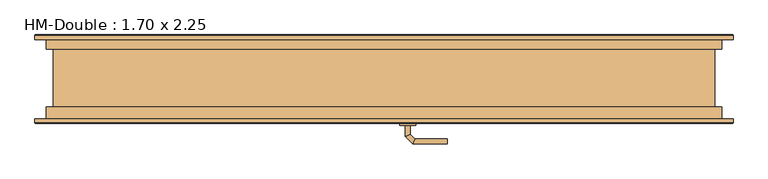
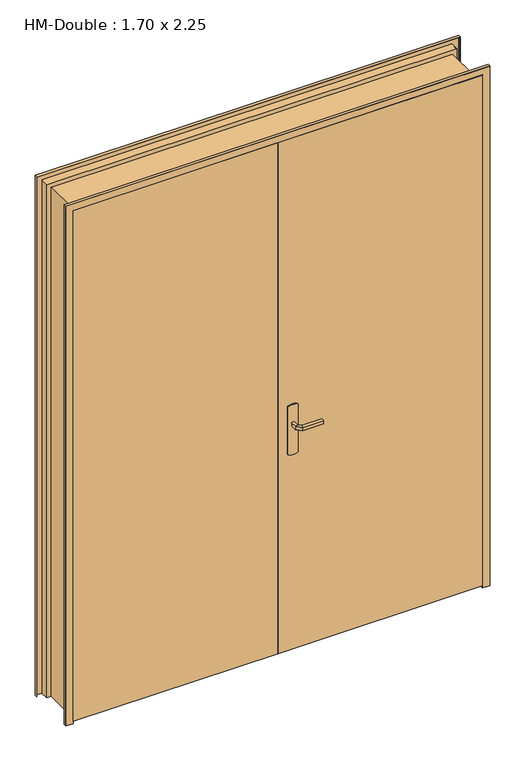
"""IFC4 building model written with IfcOpenShell, lengths in millimetres: door geometry, HM-Double : 1.70 x 2.25."""

import ifcopenshell
import ifcopenshell.guid

model = None  # the IFC model being written
_history = None  # IfcOwnerHistory: only IFC2X3 demands one
_inside = {}  # id of a spatial element -> (the spatial element, [elements in it])
_under = {}  # id of a project, library or spatial element -> (it, [spatial elements below it])
_declared = {}  # id of a project -> (the project, [libraries it declares])
_typed = {}  # id of a type object -> (the type object, [elements of that type])
_made_of = {}  # id of a material, layer set ... -> (it, [elements and type objects made of it])


def new_model(schema):
    """Start an empty IFC model of exactly this schema.

    Asked for "IFC4X3", IfcOpenShell would pick the latest addendum, in which some entities
    have other attributes; the version numbers below select the first issue.
    IFC2X3 requires an IfcOwnerHistory on every rooted entity: one is made here for all.
    """
    global model, _history
    if schema == "IFC4X3":
        model = ifcopenshell.file(schema_version=(4, 3, 0, 0))
    else:
        model = ifcopenshell.file(schema=schema)
    _inside.clear()
    _under.clear()
    _declared.clear()
    _typed.clear()
    _made_of.clear()
    _history = None
    if model.schema == "IFC2X3":
        org = make("IfcOrganization", Name="unknown")
        user = make(
            "IfcPersonAndOrganization",
            ThePerson=make("IfcPerson", FamilyName="unknown"),
            TheOrganization=org,
        )
        app = make(
            "IfcApplication",
            ApplicationDeveloper=org,
            Version="unknown",
            ApplicationFullName="unknown",
            ApplicationIdentifier="unknown",
        )
        _history = make(
            "IfcOwnerHistory",
            OwningUser=user,
            OwningApplication=app,
            ChangeAction="ADDED",
            CreationDate=0,
        )
    return model


def make(cls, **values):
    """One entity of the class cls with the attributes given. An attribute that is None is left unset."""
    return model.create_entity(
        cls, **{name: value for name, value in values.items() if value is not None}
    )


def rooted(cls, **values):
    """An entity with a GlobalId (a new one), such as an element, a storey or a relation."""
    return make(cls, GlobalId=ifcopenshell.guid.new(), OwnerHistory=_history, **values)


def si_unit(unit_type, name, prefix=None):
    """IfcSIUnit, for example si_unit("LENGTHUNIT", "METRE", prefix="MILLI")."""
    return make("IfcSIUnit", UnitType=unit_type, Prefix=prefix, Name=name)


def assignment(units):
    """IfcUnitAssignment: the units of a project."""
    return None if units is None else make("IfcUnitAssignment", Units=units)


def point(xyz):
    """IfcCartesianPoint."""
    return None if xyz is None else make("IfcCartesianPoint", Coordinates=xyz)


def direction(xyz):
    """IfcDirection."""
    return None if xyz is None else make("IfcDirection", DirectionRatios=xyz)


def frame(location, z_axis=None, x_axis=None):
    """IfcAxis2Placement3D, a coordinate frame: its origin and axes. An axis left out is left unset."""
    return make(
        "IfcAxis2Placement3D",
        Location=point(location),
        Axis=direction(z_axis),
        RefDirection=direction(x_axis),
    )


def frame_2d(location, x_axis=None):
    """IfcAxis2Placement2D, a coordinate frame in the plane: its origin and x axis."""
    return make(
        "IfcAxis2Placement2D", Location=point(location), RefDirection=direction(x_axis)
    )


def origin():
    """The frame at (0, 0, 0) with its axes left unset."""
    return frame((0.0, 0.0, 0.0))


def place(relative_to, where):
    """IfcLocalPlacement: puts the frame where relative to a parent placement (None: the world)."""
    return make(
        "IfcLocalPlacement", PlacementRelTo=relative_to, RelativePlacement=where
    )


def context(
    kind, dimensions, precision=None, world=None, true_north=None, identifier=None
):
    """IfcGeometricRepresentationContext, for example the 3D "Model" context."""
    return make(
        "IfcGeometricRepresentationContext",
        ContextIdentifier=identifier,
        ContextType=kind,
        CoordinateSpaceDimension=dimensions,
        Precision=precision,
        WorldCoordinateSystem=world,
        TrueNorth=true_north,
    )


def project(units=None, contexts=None):
    """IfcProject with its units and contexts."""
    return rooted(
        "IfcProject",
        Name="project",
        RepresentationContexts=contexts,
        UnitsInContext=assignment(units),
    )


def spatial(cls, under=None, at=None, **own):
    """A site, building, storey or space (cls), placed at a placement, below another one or the project."""
    s = rooted(cls, ObjectPlacement=at, **own)
    if under is not None:
        _under.setdefault(under.id(), (under, []))[1].append(s)
    return s


def polyline(points):
    """IfcPolyline through the points."""
    return make("IfcPolyline", Points=[point(p) for p in points])


def circle_curve(where, radius):
    """IfcCircle in the frame where."""
    return make("IfcCircle", Position=where, Radius=radius)


def ellipse_curve(where, semi_axis1, semi_axis2):
    """IfcEllipse in the frame where."""
    return make(
        "IfcEllipse", Position=where, SemiAxis1=semi_axis1, SemiAxis2=semi_axis2
    )


def trimmed(basis, trim1, trim2, sense, master):
    """IfcTrimmedCurve: the piece of a basis curve between two trims."""
    return make(
        "IfcTrimmedCurve",
        BasisCurve=basis,
        Trim1=trim1,
        Trim2=trim2,
        SenseAgreement=sense,
        MasterRepresentation=master,
    )


def segment(curve, same_sense, transition):
    """IfcCompositeCurveSegment."""
    return make(
        "IfcCompositeCurveSegment",
        Transition=transition,
        SameSense=same_sense,
        ParentCurve=curve,
    )


def composite_curve(segments, self_intersect=None):
    """IfcCompositeCurve: segments joined end to end."""
    return make("IfcCompositeCurve", Segments=segments, SelfIntersect=self_intersect)


def outline(outer, holes=None, kind="AREA"):
    """IfcArbitraryClosedProfileDef: a profile drawn as a closed curve; with holes, ...WithVoids."""
    if holes is None:
        return make("IfcArbitraryClosedProfileDef", ProfileType=kind, OuterCurve=outer)
    return make(
        "IfcArbitraryProfileDefWithVoids",
        ProfileType=kind,
        OuterCurve=outer,
        InnerCurves=holes,
    )


def extrude(swept, where, along, depth):
    """IfcExtrudedAreaSolid: the profile swept, set in the frame where, extruded along a direction by depth."""
    return make(
        "IfcExtrudedAreaSolid",
        SweptArea=swept,
        Position=where,
        ExtrudedDirection=direction(along),
        Depth=depth,
    )


def faces_of(points, faces, orient=None, outer=None):
    """IfcFace entities. A face is a list of loops; a loop is a list of indices into points, from 0.

    orient and outer hold one flag for each loop. By default every Orientation is true, the
    first loop of a face is its IfcFaceOuterBound and the others are IfcFaceBound.
    """
    made = []
    for i, loops in enumerate(faces):
        bounds = []
        for j, loop in enumerate(loops):
            is_outer = j == 0 if outer is None else outer[i][j]
            bounds.append(
                make(
                    "IfcFaceOuterBound" if is_outer else "IfcFaceBound",
                    Bound=make("IfcPolyLoop", Polygon=[points[k] for k in loop]),
                    Orientation=True if orient is None else orient[i][j],
                )
            )
        made.append(make("IfcFace", Bounds=bounds))
    return made


def faceted_brep(points, faces, orient=None, outer=None, voids=None):
    """IfcFacetedBrep: a solid bounded by flat faces; with voids (closed shells), ...WithVoids."""
    shared = [point(p) for p in points]
    hull = make("IfcClosedShell", CfsFaces=faces_of(shared, faces, orient, outer))
    if voids is None:
        return make("IfcFacetedBrep", Outer=hull)
    return make(
        "IfcFacetedBrepWithVoids",
        Outer=hull,
        Voids=[
            make(cls, CfsFaces=faces_of(shared, fs, o, b)) for cls, fs, o, b in voids
        ],
    )


def shape(context_of_items, identifier, shape_type, items):
    """IfcShapeRepresentation: the items that make up one representation, for example the "Body"."""
    return make(
        "IfcShapeRepresentation",
        ContextOfItems=context_of_items,
        RepresentationIdentifier=identifier,
        RepresentationType=shape_type,
        Items=items,
    )


def source(mapping_origin, context_of_items, identifier, shape_type, items):
    """IfcRepresentationMap: a shape defined once, which mapped items show again and again."""
    return make(
        "IfcRepresentationMap",
        MappingOrigin=mapping_origin,
        MappedRepresentation=shape(context_of_items, identifier, shape_type, items),
    )


def transform(
    local_origin,
    x_axis=None,
    y_axis=None,
    z_axis=None,
    scale=None,
    scale2=None,
    scale3=None,
    uniform=True,
):
    """IfcCartesianTransformationOperator3D, or its non-uniform kind. x_axis, y_axis, z_axis: its Axis1, 2, 3."""
    if uniform:
        return make(
            "IfcCartesianTransformationOperator3D",
            Axis1=direction(x_axis),
            Axis2=direction(y_axis),
            LocalOrigin=point(local_origin),
            Scale=scale,
            Axis3=direction(z_axis),
        )
    return make(
        "IfcCartesianTransformationOperator3DnonUniform",
        Axis1=direction(x_axis),
        Axis2=direction(y_axis),
        LocalOrigin=point(local_origin),
        Scale=scale,
        Axis3=direction(z_axis),
        Scale2=scale2,
        Scale3=scale3,
    )


def mapped(mapping_source, mapping_target):
    """IfcMappedItem: shows the shape of a source again, moved by a transform."""
    return make(
        "IfcMappedItem", MappingSource=mapping_source, MappingTarget=mapping_target
    )


def made_of(thing, what):
    """Note that an element or type object is made of a material, layer set ...; save() writes the relation."""
    if what is not None:
        _made_of.setdefault(what.id(), (what, []))[1].append(thing)
    return thing


def element(
    cls,
    number,
    at=None,
    inside=None,
    cuts=None,
    type_object=None,
    material=None,
    context=None,
    identifier="Body",
    shape_type=None,
    held_by="IfcProductDefinitionShape",
    body=None,
    shapes=None,
    **own,
):
    """One element of the class cls, such as IfcWall. Its Tag is "e" and its number.

    at: its placement. inside: the storey or other place that contains it. cuts: it is an
    opening in that element (IfcRelVoidsElement). A single representation is given by context,
    identifier, shape_type and body (its items); several are given by shapes. held_by: the class
    of the entity that holds the representations. save() writes the other relations.
    """
    e = rooted(cls, Tag="e%d" % number, ObjectPlacement=at, **own)
    if body is not None:
        shapes = [shape(context, identifier, shape_type, body)]
    if shapes is not None:
        e.Representation = make(held_by, Representations=shapes)
    if inside is not None:
        _inside.setdefault(inside.id(), (inside, []))[1].append(e)
    if cuts is not None:
        rooted(
            "IfcRelVoidsElement", RelatingBuildingElement=cuts, RelatedOpeningElement=e
        )
    if type_object is not None:
        _typed.setdefault(type_object.id(), (type_object, []))[1].append(e)
    return made_of(e, material)


def aggregate(whole, parts):
    """IfcRelAggregates: a whole, such as a stair, and the parts it consists of."""
    return rooted("IfcRelAggregates", RelatingObject=whole, RelatedObjects=parts)


def save(model, path):
    """Write the relations noted so far, then the file.

    IfcRelAggregates (storeys below a building ...), IfcRelContainedInSpatialStructure (elements
    in a storey), IfcRelDefinesByType, IfcRelAssociatesMaterial and IfcRelDeclares: one each for
    every whole, place, type object, material and project.
    """
    for whole, parts in _under.values():
        aggregate(whole, parts)
    for where, things in _inside.values():
        rooted(
            "IfcRelContainedInSpatialStructure",
            RelatedElements=things,
            RelatingStructure=where,
        )
    for kind, things in _typed.values():
        rooted("IfcRelDefinesByType", RelatedObjects=things, RelatingType=kind)
    for what, things in _made_of.values():
        rooted("IfcRelAssociatesMaterial", RelatedObjects=things, RelatingMaterial=what)
    for by, libraries in _declared.values():
        rooted("IfcRelDeclares", RelatingContext=by, RelatedDefinitions=libraries)
    model.write(path)


def plane_surface(at):
    """IfcPlane: the flat surface through the origin of the frame at, square to its z axis."""
    return make("IfcPlane", Position=at)


def cylinder_surface(at, radius):
    """IfcCylindricalSurface: all points at the distance radius from the z axis of the frame at."""
    return make("IfcCylindricalSurface", Position=at, Radius=radius)


def advanced_brep(points, edges, surfaces, faces):
    """IfcAdvancedBrep: a solid bounded by faces that lie on surfaces and meet in shared edges.

    An edge is (start, end): straight between two places in points (the first is 0);
    or (start, end, curve); or (start, end, curve, False) where it runs against its curve.
    A face is (place in surfaces, loops), or (place, loops, False) where it looks against
    its surface's normal. A loop lists edges by number (the first is 1), with a minus sign
    where the edge is run from its end to its start. The first loop is the outer one.
    """
    corners = [point(p) for p in points]
    vertices = [make("IfcVertexPoint", VertexGeometry=c) for c in corners]
    made = []
    for start, end, *more in edges:
        made.append(
            make(
                "IfcEdgeCurve",
                EdgeStart=vertices[start],
                EdgeEnd=vertices[end],
                EdgeGeometry=more[0] if more else make("IfcPolyline", Points=[corners[start], corners[end]]),
                SameSense=more[1] if len(more) > 1 else True,
            )
        )
    hull = []
    for where, loops, *sense in faces:
        bounds = []
        for j, loop in enumerate(loops):
            ring = [make("IfcOrientedEdge", EdgeElement=made[abs(k) - 1], Orientation=k > 0) for k in loop]
            bounds.append(
                make(
                    "IfcFaceOuterBound" if j == 0 else "IfcFaceBound",
                    Bound=make("IfcEdgeLoop", EdgeList=ring),
                    Orientation=True,
                )
            )
        hull.append(make("IfcAdvancedFace", Bounds=bounds, FaceSurface=surfaces[where], SameSense=sense[0] if sense else True))
    return make("IfcAdvancedBrep", Outer=make("IfcClosedShell", CfsFaces=hull))


def hm_double_1_70_x_2_25_cb3fb9cd(model_context):
    return source(origin(), model_context, "Body", "SolidModel", [
        extrude(outline(polyline([(0.0, -72.0), (0.0, -112.0), (-850.0, -112.0), (-850.0, -72.0), (0.0, -72.0)])), frame((0.0, 0.0, 10.0), z_axis=(0.0, 0.0, 1.0), x_axis=(1.0, 0.0, 0.0)), (0.0, 0.0, 1.0), 2240.0),
        advanced_brep(
        [(66.0, -67.0, 993.0), (66.0, -67.0, 1007.0), (54.0, -67.0, 1007.0), (54.0, -67.0, 993.0), (66.0, -44.5147955, 993.0), (66.0, -44.5147955, 1007.0), (54.0, -39.5442327, 1007.0), (54.0, -39.5442327, 993.0), (77.4852814, -33.0295141, 993.0), (77.4852814, -33.0295141, 1007.0), (72.5147186, -21.0295141, 1007.0), (72.5147186, -21.0295141, 993.0), (160.0457837, -33.0295141, 993.0), (160.0457837, -21.0295141, 993.0), (160.0457837, -21.0295141, 1007.0), (160.0457837, -33.0295141, 1007.0)],
        [
            (0, 1),
            (1, 2, circle_curve(frame((60.0, -67.0, 986.9542278), z_axis=(0.0, -1.0, 0.0), x_axis=(-1.0, 0.0, 0.0)), 20.9244589)),
            (2, 3),
            (3, 0, circle_curve(frame((60.0, -67.0, 1013.0457722), z_axis=(0.0, -1.0, 0.0), x_axis=(-1.0, 0.0, 0.0)), 20.9244589)),
            (0, 4),
            (4, 5),
            (5, 1),
            (5, 6, ellipse_curve(frame((60.0, -42.0295141, 986.9542278), z_axis=(-0.3826834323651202, -0.9238795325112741, 0.0), x_axis=(0.9238795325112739, -0.3826834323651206, 0.0)), 22.6484711, 20.9244589)),
            (6, 2),
            (6, 7),
            (7, 3),
            (7, 4, ellipse_curve(frame((60.0, -42.0295141, 1013.0457722), z_axis=(-0.3826834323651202, -0.9238795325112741, 0.0), x_axis=(0.9238795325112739, -0.3826834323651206, 0.0)), 22.6484711, 20.9244589)),
            (4, 8),
            (8, 9),
            (9, 5),
            (9, 10, ellipse_curve(frame((75.0, -27.0295141, 986.9542278), z_axis=(-0.9238795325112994, -0.3826834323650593, 0.0), x_axis=(0.3826834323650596, -0.9238795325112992, 0.0)), 22.6484711, 20.9244589)),
            (10, 6),
            (10, 11),
            (11, 7),
            (11, 8, ellipse_curve(frame((75.0, -27.0295141, 1013.0457722), z_axis=(-0.9238795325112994, -0.3826834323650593, 0.0), x_axis=(0.3826834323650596, -0.9238795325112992, 0.0)), 22.6484711, 20.9244589)),
            (12, 13, circle_curve(frame((160.0457837, -27.0295141, 1013.0457722), z_axis=(1.0, 0.0, 0.0), x_axis=(0.0, 1.0, 0.0)), 20.9244589)),
            (13, 14),
            (14, 15, circle_curve(frame((160.0457837, -27.0295141, 986.9542278), z_axis=(1.0, 0.0, 0.0), x_axis=(0.0, 1.0, 0.0)), 20.9244589)),
            (15, 12),
            (8, 12),
            (15, 9),
            (14, 10),
            (13, 11),
        ],
        [
            plane_surface(frame((50.7804555, -67.0, 1000.0), z_axis=(0.0, -1.0, 0.0), x_axis=(0.0, 0.0, 1.0))),
            plane_surface(frame((66.0, -67.0, 993.0), z_axis=(1.0, 0.0, 0.0), x_axis=(0.0, 1.0, 0.0))),
            cylinder_surface(frame((60.0, -67.0, 986.9542278), z_axis=(0.0, -1.0, 0.0), x_axis=(-1.0, 0.0, 0.0)), 20.9244589),
            plane_surface(frame((54.0, -67.0, 1007.0), z_axis=(-1.0, 0.0, 0.0), x_axis=(0.0, 1.0, 0.0))),
            cylinder_surface(frame((60.0, -67.0, 1013.0457722), z_axis=(0.0, -1.0, 0.0), x_axis=(-1.0, 0.0, 0.0)), 20.9244589),
            plane_surface(frame((66.0, -44.5147955, 993.0), z_axis=(0.7071067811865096, -0.7071067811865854, 0.0), x_axis=(0.7071067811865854, 0.7071067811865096, 0.0))),
            cylinder_surface(frame((60.0, -42.0295141, 986.9542278), z_axis=(-0.7071067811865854, -0.7071067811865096, 0.0), x_axis=(-0.7071067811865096, 0.7071067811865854, 0.0)), 20.9244589),
            plane_surface(frame((54.0, -39.5442327, 1007.0), z_axis=(-0.7071067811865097, 0.7071067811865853, 0.0), x_axis=(0.7071067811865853, 0.7071067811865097, 0.0))),
            cylinder_surface(frame((60.0, -42.0295141, 1013.0457722), z_axis=(-0.7071067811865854, -0.7071067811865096, 0.0), x_axis=(-0.7071067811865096, 0.7071067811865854, 0.0)), 20.9244589),
            plane_surface(frame((160.0457837, -27.0295141, 990.7804555), z_axis=(1.0, 0.0, 0.0), x_axis=(0.0, 1.0, 0.0))),
            plane_surface(frame((77.4852814, -33.0295141, 993.0), z_axis=(0.0, -1.0, 0.0), x_axis=(1.0, 0.0, 0.0))),
            cylinder_surface(frame((75.0, -27.0295141, 986.9542278), z_axis=(-1.0, 0.0, 0.0), x_axis=(0.0, 1.0, 0.0)), 20.9244589),
            plane_surface(frame((72.5147186, -21.0295141, 1007.0), z_axis=(0.0, 1.0, 0.0), x_axis=(1.0, 0.0, 0.0))),
            cylinder_surface(frame((75.0, -27.0295141, 1013.0457722), z_axis=(-1.0, 0.0, 0.0), x_axis=(0.0, 1.0, 0.0)), 20.9244589),
        ],
        [
            (0, [[1, 2, 3, 4]]),
            (1, [[-1, 5, 6, 7]]),
            (2, [[-2, -7, 8, 9]]),
            (3, [[-3, -9, 10, 11]]),
            (4, [[-4, -11, 12, -5]]),
            (5, [[-6, 13, 14, 15]]),
            (6, [[-8, -15, 16, 17]]),
            (7, [[-10, -17, 18, 19]]),
            (8, [[-12, -19, 20, -13]]),
            (9, [[21, 22, 23, 24]]),
            (10, [[-14, 25, -24, 26]]),
            (11, [[-16, -26, -23, 27]]),
            (12, [[-18, -27, -22, 28]]),
            (13, [[-20, -28, -21, -25]]),
        ],
    ),
        advanced_brep(
        [(54.0, -117.0, 1007.0), (66.0, -117.0, 1007.0), (66.0, -117.0, 993.0), (54.0, -117.0, 993.0), (54.0, -144.6509507, 1007.0), (66.0, -139.680388, 1007.0), (66.0, -139.680388, 993.0), (54.0, -144.6509507, 993.0), (72.37721, -163.0281607, 1007.0), (77.3477727, -151.0281607, 1007.0), (77.3477727, -151.0281607, 993.0), (72.37721, -163.0281607, 993.0), (160.0186406, -163.0281607, 1007.0), (160.0186406, -163.0281607, 993.0), (160.0186406, -151.0281607, 993.0), (160.0186406, -151.0281607, 1007.0)],
        [
            (0, 1, circle_curve(frame((60.0, -117.0, 986.9542278), z_axis=(0.0, 1.0, 0.0), x_axis=(1.0, 0.0, 0.0)), 20.9244589)),
            (1, 2),
            (2, 3, circle_curve(frame((60.0, -117.0, 1013.0457722), z_axis=(0.0, 1.0, 0.0), x_axis=(1.0, 0.0, 0.0)), 20.9244589)),
            (3, 0),
            (0, 4),
            (4, 5, ellipse_curve(frame((60.0, -142.1656693, 986.9542278), z_axis=(-0.3826834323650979, 0.9238795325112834, 0.0), x_axis=(0.9238795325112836, 0.3826834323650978, 0.0)), 22.6484711, 20.9244589)),
            (5, 1),
            (5, 6),
            (6, 2),
            (6, 7, ellipse_curve(frame((60.0, -142.1656693, 1013.0457722), z_axis=(-0.3826834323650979, 0.9238795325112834, 0.0), x_axis=(0.9238795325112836, 0.3826834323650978, 0.0)), 22.6484711, 20.9244589)),
            (7, 3),
            (7, 4),
            (4, 8),
            (8, 9, ellipse_curve(frame((74.8624914, -157.0281607, 986.9542278), z_axis=(-0.92387953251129, 0.3826834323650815, 0.0), x_axis=(0.3826834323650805, 0.9238795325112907, 0.0)), 22.6484711, 20.9244589)),
            (9, 5),
            (9, 10),
            (10, 6),
            (10, 11, ellipse_curve(frame((74.8624914, -157.0281607, 1013.0457722), z_axis=(-0.92387953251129, 0.3826834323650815, 0.0), x_axis=(0.3826834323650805, 0.9238795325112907, 0.0)), 22.6484711, 20.9244589)),
            (11, 7),
            (11, 8),
            (12, 13),
            (13, 14, circle_curve(frame((160.0186406, -157.0281607, 1013.0457722), z_axis=(1.0, 0.0, 0.0), x_axis=(0.0, 1.0, 0.0)), 20.9244589)),
            (14, 15),
            (15, 12, circle_curve(frame((160.0186406, -157.0281607, 986.9542278), z_axis=(1.0, 0.0, 0.0), x_axis=(0.0, 1.0, 0.0)), 20.9244589)),
            (8, 12),
            (15, 9),
            (14, 10),
            (13, 11),
        ],
        [
            plane_surface(frame((50.7804555, -117.0, 1000.0), z_axis=(0.0, 1.0, 0.0), x_axis=(0.0, 0.0, -1.0))),
            cylinder_surface(frame((60.0, -117.0, 986.9542278), z_axis=(0.0, 1.0, 0.0), x_axis=(1.0, 0.0, 0.0)), 20.9244589),
            plane_surface(frame((66.0, -117.0, 1007.0), z_axis=(1.0, 0.0, 0.0), x_axis=(0.0, -1.0, 0.0))),
            cylinder_surface(frame((60.0, -117.0, 1013.0457722), z_axis=(0.0, 1.0, 0.0), x_axis=(1.0, 0.0, 0.0)), 20.9244589),
            plane_surface(frame((54.0, -117.0, 993.0), z_axis=(-1.0, 0.0, 0.0), x_axis=(0.0, -1.0, 0.0))),
            cylinder_surface(frame((60.0, -142.1656693, 986.9542278), z_axis=(-0.7071067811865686, 0.7071067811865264, 0.0), x_axis=(0.7071067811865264, 0.7071067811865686, 0.0)), 20.9244589),
            plane_surface(frame((66.0, -139.680388, 1007.0), z_axis=(0.7071067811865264, 0.7071067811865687, 0.0), x_axis=(0.7071067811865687, -0.7071067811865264, 0.0))),
            cylinder_surface(frame((60.0, -142.1656693, 1013.0457722), z_axis=(-0.7071067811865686, 0.7071067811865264, 0.0), x_axis=(0.7071067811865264, 0.7071067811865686, 0.0)), 20.9244589),
            plane_surface(frame((54.0, -144.6509507, 993.0), z_axis=(-0.7071067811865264, -0.7071067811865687, 0.0), x_axis=(0.7071067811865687, -0.7071067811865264, 0.0))),
            plane_surface(frame((160.0186406, -157.0281607, 990.7804555), z_axis=(1.0, 0.0, 0.0), x_axis=(0.0, 1.0, 0.0))),
            cylinder_surface(frame((74.8624914, -157.0281607, 986.9542278), z_axis=(-1.0, 0.0, 0.0), x_axis=(0.0, 1.0, 0.0)), 20.9244589),
            plane_surface(frame((77.3477727, -151.0281607, 1007.0), z_axis=(0.0, 1.0, 0.0), x_axis=(1.0, 0.0, 0.0))),
            cylinder_surface(frame((74.8624914, -157.0281607, 1013.0457722), z_axis=(-1.0, 0.0, 0.0), x_axis=(0.0, 1.0, 0.0)), 20.9244589),
            plane_surface(frame((72.37721, -163.0281607, 993.0), z_axis=(0.0, -1.0, 0.0), x_axis=(1.0, 0.0, 0.0))),
        ],
        [
            (0, [[1, 2, 3, 4]]),
            (1, [[-1, 5, 6, 7]]),
            (2, [[-2, -7, 8, 9]]),
            (3, [[-3, -9, 10, 11]]),
            (4, [[-4, -11, 12, -5]]),
            (5, [[-6, 13, 14, 15]]),
            (6, [[-8, -15, 16, 17]]),
            (7, [[-10, -17, 18, 19]]),
            (8, [[-12, -19, 20, -13]]),
            (9, [[21, 22, 23, 24]]),
            (10, [[-14, 25, -24, 26]]),
            (11, [[-16, -26, -23, 27]]),
            (12, [[-18, -27, -22, 28]]),
            (13, [[-20, -28, -21, -25]]),
        ],
    ),
        extrude(outline(composite_curve([segment(trimmed(circle_curve(frame_2d((1045.3589838, 60.0)), 40.0), [point((1080.0, 80.0))], [point((1080.0, 40.0))], False, "CARTESIAN"), True, "CONTINUOUS"), segment(polyline([(1080.0, 40.0), (870.0, 40.0)]), True, "CONTINUOUS"), segment(trimmed(circle_curve(frame_2d((904.6410162, 60.0)), 40.0), [point((870.0, 40.0))], [point((870.0, 80.0))], False, "CARTESIAN"), True, "CONTINUOUS"), segment(polyline([(870.0, 80.0), (1080.0, 80.0)]), True, "CONTINUOUS")], self_intersect=False)), frame((0.0, -72.0, 0.0), z_axis=(0.0, 1.0, 0.0), x_axis=(0.0, 0.0, 1.0)), (0.0, 0.0, 1.0), 5.0),
        extrude(outline(composite_curve([segment(trimmed(circle_curve(frame_2d((904.6410162, 60.0)), 40.0), [point((870.0, 40.0))], [point((870.0, 80.0))], False, "CARTESIAN"), True, "CONTINUOUS"), segment(polyline([(870.0, 80.0), (1080.0, 80.0)]), True, "CONTINUOUS"), segment(trimmed(circle_curve(frame_2d((1045.3589838, 60.0)), 40.0), [point((1080.0, 80.0))], [point((1080.0, 40.0))], False, "CARTESIAN"), True, "CONTINUOUS"), segment(polyline([(1080.0, 40.0), (870.0, 40.0)]), True, "CONTINUOUS")], self_intersect=False)), frame((0.0, -117.0, 0.0), z_axis=(0.0, 1.0, 0.0), x_axis=(0.0, 0.0, 1.0)), (0.0, 0.0, 1.0), 5.0),
        extrude(outline(polyline([(0.0, -72.0), (850.0, -72.0), (850.0, -112.0), (0.0, -112.0), (0.0, -72.0)])), frame((0.0, 0.0, 10.0), z_axis=(0.0, 0.0, 1.0), x_axis=(1.0, 0.0, 0.0)), (0.0, 0.0, 1.0), 2240.0),
        faceted_brep([(880.0, 100.0, 0.0), (878.5, 100.0, 0.0), (878.5, 110.5, 0.0), (851.5, 110.5, 0.0), (851.5, 75.5, 0.0), (833.5, 75.5, 0.0), (833.5, -70.5, 0.0), (851.5, -70.5, 0.0), (851.5, -110.5, 0.0), (878.5, -110.5, 0.0), (878.5, -100.0, 0.0), (880.0, -100.0, 0.0), (880.0, -111.2, 0.0), (879.2, -112.0, 0.0), (850.8, -112.0, 0.0), (850.0, -111.2, 0.0), (850.0, -72.0, 0.0), (832.8, -72.0, 0.0), (832.0, -71.2, 0.0), (832.0, 76.2, 0.0), (832.8, 77.0, 0.0), (850.0, 77.0, 0.0), (850.0, 111.2, 0.0), (850.8, 112.0, 0.0), (879.2, 112.0, 0.0), (880.0, 111.2, 0.0), (880.0, 100.0, 2280.0), (-880.0, 100.0, 2280.0), (-880.0, 100.0, 0.0), (-878.5, 100.0, 0.0), (-878.5, 100.0, 2278.5), (878.5, 100.0, 2278.5), (878.5, 110.5, 2278.5), (-878.5, 110.5, 2278.5), (-878.5, 110.5, 0.0), (-851.5, 110.5, 0.0), (-851.5, 110.5, 2251.5), (851.5, 110.5, 2251.5), (851.5, 75.5, 2251.5), (-851.5, 75.5, 2251.5), (-851.5, 75.5, 0.0), (-833.5, 75.5, 0.0), (-833.5, 75.5, 2233.5), (833.5, 75.5, 2233.5), (833.5, -70.5, 2233.5), (-833.5, -70.5, 2233.5), (-833.5, -70.5, 0.0), (-851.5, -70.5, 0.0), (-851.5, -70.5, 2251.5), (851.5, -70.5, 2251.5), (851.5, -110.5, 2251.5), (-851.5, -110.5, 2251.5), (-851.5, -110.5, 0.0), (-878.5, -110.5, 0.0), (-878.5, -110.5, 2278.5), (878.5, -110.5, 2278.5), (878.5, -100.0, 2278.5), (-878.5, -100.0, 2278.5), (-878.5, -100.0, 0.0), (-880.0, -100.0, 0.0), (-880.0, -100.0, 2280.0), (880.0, -100.0, 2280.0), (880.0, -111.2, 2280.0), (879.2, -112.0, 2279.2), (-879.2, -112.0, 2279.2), (-879.2, -112.0, 0.0), (-850.8, -112.0, 0.0), (-850.8, -112.0, 2250.8), (850.8, -112.0, 2250.8), (850.0, -111.2, 2250.0), (850.0, -72.0, 2250.0), (-850.0, -72.0, 2250.0), (-850.0, -72.0, 0.0), (-832.8, -72.0, 0.0), (-832.8, -72.0, 2232.8), (832.8, -72.0, 2232.8), (832.0, -71.2, 2232.0), (832.0, 76.2, 2232.0), (832.8, 77.0, 2232.8), (-832.8, 77.0, 2232.8), (-832.8, 77.0, 0.0), (-850.0, 77.0, 0.0), (-850.0, 77.0, 2250.0), (850.0, 77.0, 2250.0), (850.0, 111.2, 2250.0), (850.8, 112.0, 2250.8), (-850.8, 112.0, 2250.8), (-850.8, 112.0, 0.0), (-879.2, 112.0, 0.0), (-879.2, 112.0, 2279.2), (879.2, 112.0, 2279.2), (880.0, 111.2, 2280.0), (-880.0, 111.2, 2280.0), (-880.0, 111.2, 0.0), (-850.0, 111.2, 0.0), (-832.0, 76.2, 0.0), (-832.0, -71.2, 0.0), (-850.0, -111.2, 0.0), (-880.0, -111.2, 0.0), (-880.0, -111.2, 2280.0), (-850.0, -111.2, 2250.0), (-832.0, -71.2, 2232.0), (-832.0, 76.2, 2232.0), (-850.0, 111.2, 2250.0)], [[[0, 1, 2, 3, 4, 5, 6, 7, 8, 9, 10, 11, 12, 13, 14, 15, 16, 17, 18, 19, 20, 21, 22, 23, 24, 25]], [[1, 0, 26, 27, 28, 29, 30, 31]], [[2, 1, 31, 32]], [[3, 2, 32, 33, 34, 35, 36, 37]], [[4, 3, 37, 38]], [[5, 4, 38, 39, 40, 41, 42, 43]], [[6, 5, 43, 44]], [[7, 6, 44, 45, 46, 47, 48, 49]], [[8, 7, 49, 50]], [[9, 8, 50, 51, 52, 53, 54, 55]], [[10, 9, 55, 56]], [[11, 10, 56, 57, 58, 59, 60, 61]], [[12, 11, 61, 62]], [[13, 12, 62, 63]], [[14, 13, 63, 64, 65, 66, 67, 68]], [[15, 14, 68, 69]], [[16, 15, 69, 70]], [[17, 16, 70, 71, 72, 73, 74, 75]], [[18, 17, 75, 76]], [[19, 18, 76, 77]], [[20, 19, 77, 78]], [[21, 20, 78, 79, 80, 81, 82, 83]], [[22, 21, 83, 84]], [[23, 22, 84, 85]], [[24, 23, 85, 86, 87, 88, 89, 90]], [[25, 24, 90, 91]], [[0, 25, 91, 26]], [[27, 92, 93, 28]], [[28, 93, 88, 87, 94, 81, 80, 95, 96, 73, 72, 97, 66, 65, 98, 59, 58, 53, 52, 47, 46, 41, 40, 35, 34, 29]], [[33, 30, 29, 34]], [[39, 36, 35, 40]], [[45, 42, 41, 46]], [[51, 48, 47, 52]], [[57, 54, 53, 58]], [[99, 60, 59, 98]], [[64, 99, 98, 65]], [[100, 67, 66, 97]], [[71, 100, 97, 72]], [[101, 74, 73, 96]], [[79, 102, 95, 80]], [[103, 82, 81, 94]], [[86, 103, 94, 87]], [[92, 89, 88, 93]], [[102, 101, 96, 95]], [[32, 31, 30, 33]], [[38, 37, 36, 39]], [[44, 43, 42, 45]], [[50, 49, 48, 51]], [[56, 55, 54, 57]], [[62, 61, 60, 99]], [[63, 62, 99, 64]], [[69, 68, 67, 100]], [[70, 69, 100, 71]], [[76, 75, 74, 101]], [[77, 76, 101, 102]], [[78, 77, 102, 79]], [[84, 83, 82, 103]], [[85, 84, 103, 86]], [[91, 90, 89, 92]], [[26, 91, 92, 27]]]),
    ])


if __name__ == "__main__":
    model = new_model("IFC4")
    model_context = context("Model", 3, world=origin())
    ifc_project = project(units=[si_unit("LENGTHUNIT", "METRE", prefix="MILLI")], contexts=[model_context])
    site = spatial("IfcSite", under=ifc_project)
    building = spatial("IfcBuilding", under=site)
    placement = place(None, origin())
    hm_double_1_70_x_2_25_shape = hm_double_1_70_x_2_25_cb3fb9cd(model_context)
    element("IfcDoor", 1, ObjectType="HM-Double : 1.70 x 2.25", at=placement, inside=building, context=model_context, shape_type="MappedRepresentation", body=[
        mapped(hm_double_1_70_x_2_25_shape, transform((0.0, 0.0, 0.0), x_axis=(1.0, 0.0, 0.0), y_axis=(0.0, 1.0, 0.0), z_axis=(0.0, 0.0, 1.0))),
    ])
    save(model, "model.ifc")
